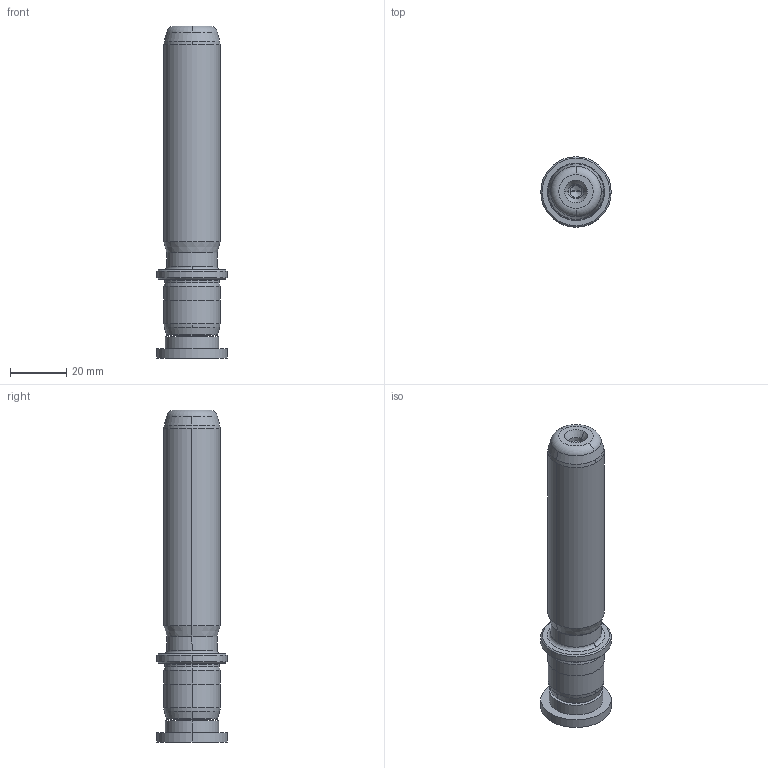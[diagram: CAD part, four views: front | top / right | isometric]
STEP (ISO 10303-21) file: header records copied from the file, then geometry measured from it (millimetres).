
FILE_DESCRIPTION((''),'2;1');
FILE_NAME('P22_020_090.stp','2009-02-02T11:05:29',(''),(''),'Mechanical Desktop 2009','Mechanical Desktop 2009',', , ');
FILE_SCHEMA(('CONFIG_CONTROL_DESIGN'));
Length unit declared in the file: millimetre
Products named in the file (2): Product; blmdl1
Assembly tree (1 placements, depth 2):
  Product
    blmdl1
Bounding box: 25 x 25 x 118 mm (x, y, z)
Volume: 36436.1 mm3; surface area: 10284.3 mm2
Topology: 3 solids, 3 shells, 99 faces, 237 edges, 149 vertices
Faces by surface type: cylinder 32, cone 28, plane 19, bspline 14, torus 6
Entity records: 3579 total; most frequent: CARTESIAN_POINT 1099, DIRECTION 562, ORIENTED_EDGE 466, AXIS2_PLACEMENT_3D 242, EDGE_CURVE 233, CIRCLE 155, VERTEX_POINT 149, EDGE_LOOP 110
